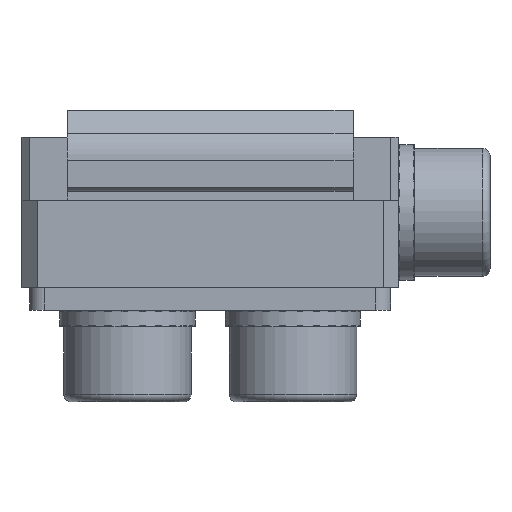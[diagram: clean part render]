
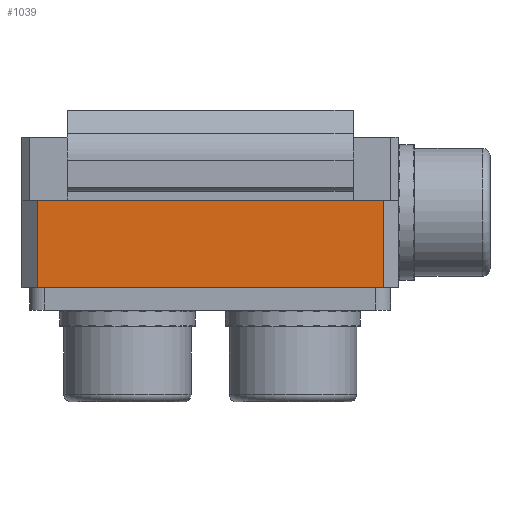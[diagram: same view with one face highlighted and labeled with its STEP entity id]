
A CAD part, left-side view. The second image highlights one B-rep face of the part: STEP entity #1039.
In plain terms, the highlighted planar face has unit normal (-1, 0, 0).
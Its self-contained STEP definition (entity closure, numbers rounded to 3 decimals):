
#1039=ADVANCED_FACE('',(#1996),#1997,.F.);
#1996=FACE_OUTER_BOUND('',#2943,.T.);
#1997=PLANE('',#2944);
#2943=EDGE_LOOP('',(#5537,#5538,#5539,#5540));
#2944=AXIS2_PLACEMENT_3D('',#5541,#5542,#5543);
#5537=ORIENTED_EDGE('',*,*,#6828,.T.);
#5538=ORIENTED_EDGE('',*,*,#6853,.T.);
#5539=ORIENTED_EDGE('',*,*,#6854,.T.);
#5540=ORIENTED_EDGE('',*,*,#6855,.T.);
#5541=CARTESIAN_POINT('',(-68.5,12.5,12.0));
#5542=DIRECTION('',(1.0,0.0,0.0));
#5543=DIRECTION('',(0.0,0.0,-1.0));
#6828=EDGE_CURVE('',#8414,#8412,#8415,.T.);
#6853=EDGE_CURVE('',#8412,#8457,#8458,.T.);
#6854=EDGE_CURVE('',#8457,#8459,#8460,.T.);
#6855=EDGE_CURVE('',#8459,#8414,#8461,.T.);
#8412=VERTEX_POINT('',#10604);
#8414=VERTEX_POINT('',#10607);
#8415=LINE('',#10608,#10609);
#8457=VERTEX_POINT('',#10669);
#8458=LINE('',#10670,#10671);
#8459=VERTEX_POINT('',#10672);
#8460=LINE('',#10673,#10674);
#8461=LINE('',#10675,#10676);
#10604=CARTESIAN_POINT('',(-68.5,11.5,0.6));
#10607=CARTESIAN_POINT('',(-68.5,11.5,6.4));
#10608=CARTESIAN_POINT('',(-68.5,11.5,12.0));
#10609=VECTOR('',#12065,1.0);
#10669=CARTESIAN_POINT('',(-68.5,-11.5,0.6));
#10670=CARTESIAN_POINT('',(-68.5,22.425,0.6));
#10671=VECTOR('',#12087,1.0);
#10672=CARTESIAN_POINT('',(-68.5,-11.5,6.4));
#10673=CARTESIAN_POINT('',(-68.5,-11.5,12.0));
#10674=VECTOR('',#12088,1.0);
#10675=CARTESIAN_POINT('',(-68.5,12.5,6.4));
#10676=VECTOR('',#12089,1.0);
#12065=DIRECTION('',(0.0,0.0,-1.0));
#12087=DIRECTION('',(0.0,-1.0,0.0));
#12088=DIRECTION('',(0.0,0.0,1.0));
#12089=DIRECTION('',(0.0,1.0,0.0));
